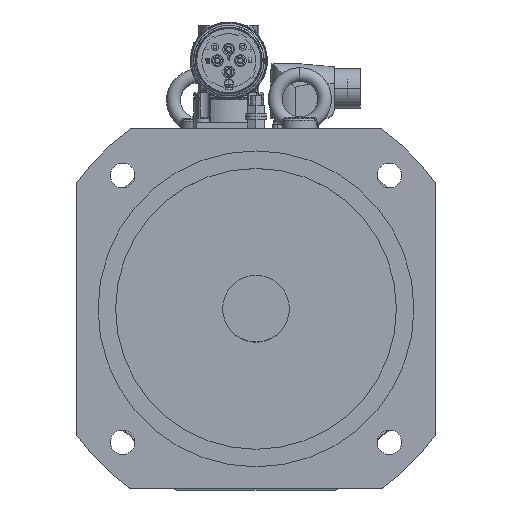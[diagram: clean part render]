
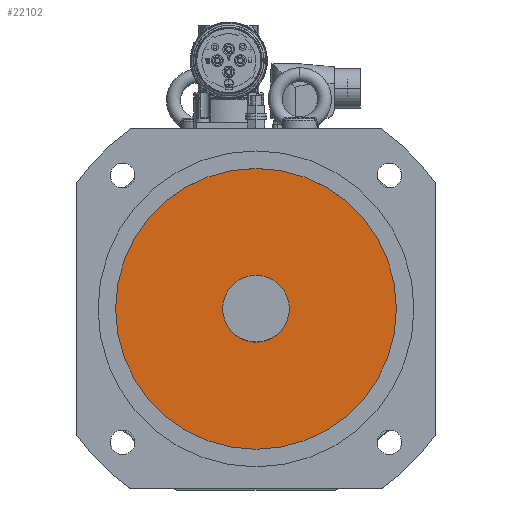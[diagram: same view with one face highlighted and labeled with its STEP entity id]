
A CAD part, top view. The second image highlights one B-rep face of the part: STEP entity #22102.
In plain terms, the highlighted planar face has unit normal (0, 0, 1).
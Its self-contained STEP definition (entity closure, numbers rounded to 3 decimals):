
#6576 = CARTESIAN_POINT ( 'NONE',  ( -80., 0., 52. ) ) ;
#6603 = CARTESIAN_POINT ( 'NONE',  ( -19., 0., 52. ) ) ;
#6614 = CARTESIAN_POINT ( 'NONE',  ( 80., 0., 52. ) ) ;
#12105 = DIRECTION ( 'NONE',  ( 1., 0., 0. ) ) ;
#12106 = DIRECTION ( 'NONE',  ( 0., 0., 1. ) ) ;
#12109 = DIRECTION ( 'NONE',  ( 1., 0., 0. ) ) ;
#12110 = DIRECTION ( 'NONE',  ( 0., 0., 1. ) ) ;
#12116 = CARTESIAN_POINT ( 'NONE',  ( 0., 0., 52. ) ) ;
#12120 = CARTESIAN_POINT ( 'NONE',  ( 0., 0., 52. ) ) ;
#13145 = AXIS2_PLACEMENT_3D ( 'NONE', #23776, #23768, #23765 ) ;
#15113 = DIRECTION ( 'NONE',  ( 1., 0., 0. ) ) ;
#15114 = DIRECTION ( 'NONE',  ( 0., 0., 1. ) ) ;
#15117 = DIRECTION ( 'NONE',  ( 1., 0., 0. ) ) ;
#15118 = DIRECTION ( 'NONE',  ( 0., 0., 1. ) ) ;
#15120 = CARTESIAN_POINT ( 'NONE',  ( 0., 0., 52. ) ) ;
#15122 = CARTESIAN_POINT ( 'NONE',  ( 0., 0., 52. ) ) ;
#18530 = ORIENTED_EDGE ( 'NONE', *, *, #20328, .T. ) ;
#18531 = ORIENTED_EDGE ( 'NONE', *, *, #20224, .T. ) ;
#18532 = ORIENTED_EDGE ( 'NONE', *, *, #20329, .F. ) ;
#18533 = ORIENTED_EDGE ( 'NONE', *, *, #20223, .F. ) ;
#19589 = CARTESIAN_POINT ( 'NONE',  ( 19., 0., 52. ) ) ;
#20223 = EDGE_CURVE ( 'NONE', #23508, #25645, #25715, .T. ) ;
#20224 = EDGE_CURVE ( 'NONE', #25618, #25656, #25754, .T. ) ;
#20328 = EDGE_CURVE ( 'NONE', #25656, #25618, #26011, .T. ) ;
#20329 = EDGE_CURVE ( 'NONE', #25645, #23508, #26009, .T. ) ;
#20625 = AXIS2_PLACEMENT_3D ( 'NONE', #15122, #15114, #15113 ) ;
#20626 = AXIS2_PLACEMENT_3D ( 'NONE', #15120, #15118, #15117 ) ;
#20680 = AXIS2_PLACEMENT_3D ( 'NONE', #12116, #12106, #12105 ) ;
#20683 = AXIS2_PLACEMENT_3D ( 'NONE', #12120, #12110, #12109 ) ;
#22102 = ADVANCED_FACE ( 'NONE', ( #24645, #24638 ), #23773, .T. ) ;
#23508 = VERTEX_POINT ( 'NONE', #19589 ) ;
#23765 = DIRECTION ( 'NONE',  ( 1., 0., 0. ) ) ;
#23768 = DIRECTION ( 'NONE',  ( 0., 0., 1. ) ) ;
#23773 = PLANE ( 'NONE',  #13145 ) ;
#23776 = CARTESIAN_POINT ( 'NONE',  ( 0., 0., 52. ) ) ;
#24638 = FACE_BOUND ( 'NONE', #28846, .T. ) ;
#24645 = FACE_OUTER_BOUND ( 'NONE', #28864, .T. ) ;
#25618 = VERTEX_POINT ( 'NONE', #6576 ) ;
#25645 = VERTEX_POINT ( 'NONE', #6603 ) ;
#25656 = VERTEX_POINT ( 'NONE', #6614 ) ;
#25715 = CIRCLE ( 'NONE', #20626, 19. ) ;
#25754 = CIRCLE ( 'NONE', #20625, 80. ) ;
#26009 = CIRCLE ( 'NONE', #20680, 19. ) ;
#26011 = CIRCLE ( 'NONE', #20683, 80. ) ;
#28846 = EDGE_LOOP ( 'NONE', ( #18532, #18533 ) ) ;
#28864 = EDGE_LOOP ( 'NONE', ( #18530, #18531 ) ) ;
